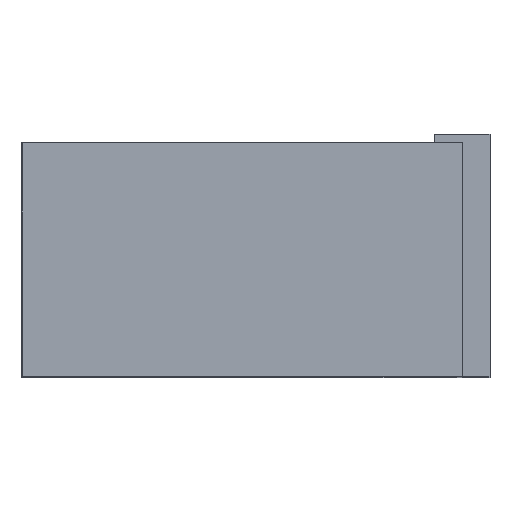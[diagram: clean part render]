
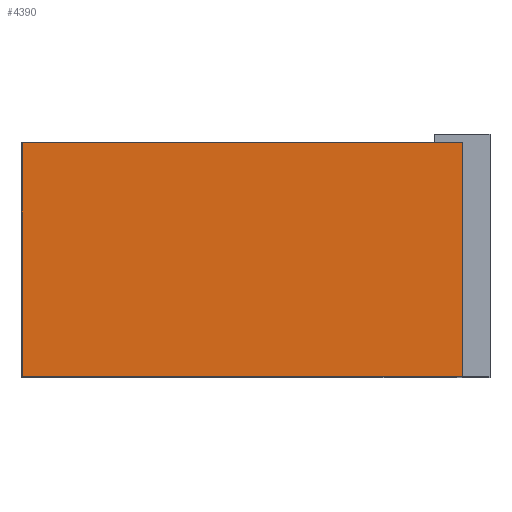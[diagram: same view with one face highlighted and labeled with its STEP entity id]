
A CAD part, top view. The second image highlights one B-rep face of the part: STEP entity #4390.
In plain terms, the highlighted planar face has unit normal (0, 0, 1) as drawn and (-1, 0, 0) by its records, which use the part's own axes.
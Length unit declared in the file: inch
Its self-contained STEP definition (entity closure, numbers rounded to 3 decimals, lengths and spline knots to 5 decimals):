
#1012=FACE_OUTER_BOUND('',#1240,.T.);
#1240=EDGE_LOOP('',(#3290,#3291,#3292,#3293));
#1513=LINE('',#6725,#1963);
#1516=LINE('',#6731,#1966);
#1520=LINE('',#6739,#1970);
#1521=LINE('',#6741,#1971);
#1963=VECTOR('',#5470,0.3937);
#1966=VECTOR('',#5475,0.3937);
#1970=VECTOR('',#5483,0.3937);
#1971=VECTOR('',#5486,0.3937);
#2394=VERTEX_POINT('',#6718);
#2397=VERTEX_POINT('',#6723);
#2399=VERTEX_POINT('',#6729);
#2401=VERTEX_POINT('',#6737);
#2739=EDGE_CURVE('',#2397,#2394,#1513,.T.);
#2742=EDGE_CURVE('',#2397,#2399,#1516,.T.);
#2746=EDGE_CURVE('',#2399,#2401,#1520,.T.);
#2747=EDGE_CURVE('',#2394,#2401,#1521,.T.);
#3290=ORIENTED_EDGE('',*,*,#2742,.T.);
#3291=ORIENTED_EDGE('',*,*,#2746,.T.);
#3292=ORIENTED_EDGE('',*,*,#2747,.F.);
#3293=ORIENTED_EDGE('',*,*,#2739,.F.);
#4186=PLANE('',#5013);
#4390=ADVANCED_FACE('',(#1012),#4186,.T.);
#5013=AXIS2_PLACEMENT_3D('',#6740,#5484,#5485);
#5470=DIRECTION('',(0.,1.,0.));
#5475=DIRECTION('',(0.,0.,1.));
#5483=DIRECTION('',(0.,1.,0.));
#5484=DIRECTION('center_axis',(-1.,0.,0.));
#5485=DIRECTION('ref_axis',(0.,0.,1.));
#5486=DIRECTION('',(0.,0.,1.));
#6718=CARTESIAN_POINT('',(0.,42.,-79.));
#6723=CARTESIAN_POINT('',(0.,0.,-79.));
#6725=CARTESIAN_POINT('',(0.,0.,-79.));
#6729=CARTESIAN_POINT('',(0.,0.,0.));
#6731=CARTESIAN_POINT('',(0.,0.,-79.));
#6737=CARTESIAN_POINT('',(0.,42.,0.));
#6739=CARTESIAN_POINT('',(0.,0.,0.));
#6740=CARTESIAN_POINT('Origin',(0.,0.,-79.));
#6741=CARTESIAN_POINT('',(0.,42.,-79.));
